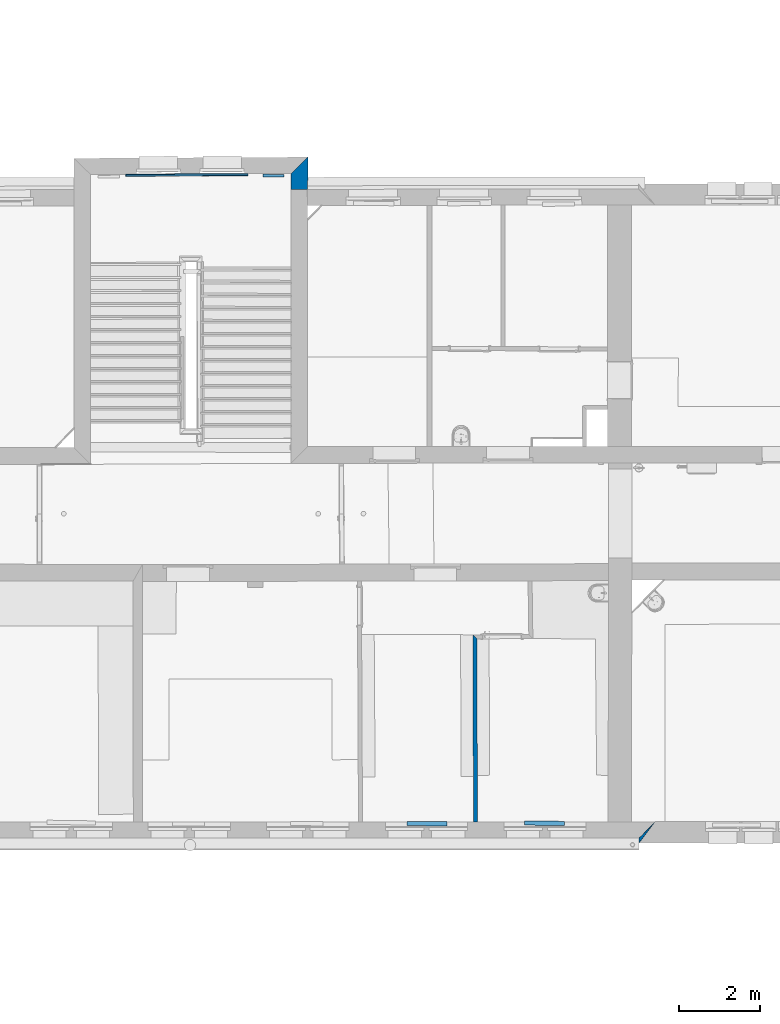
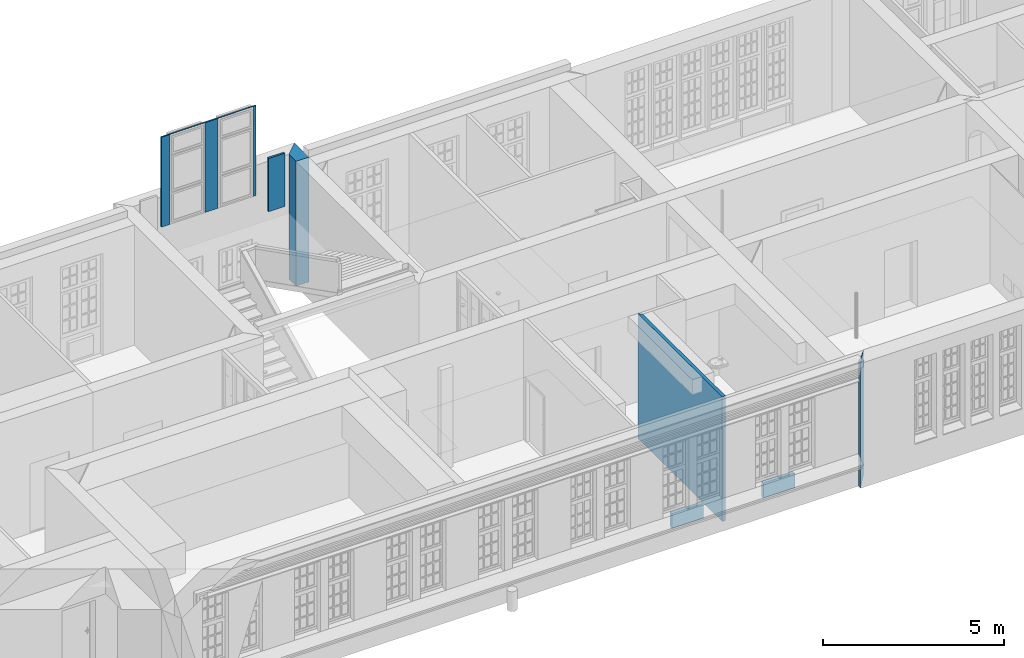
# One storey, part 20 of 90: 7 walls, 2 openings.
"""IFC2X3 building model written with IfcOpenShell, lengths in metres."""

import ifcopenshell
import ifcopenshell.guid

model = None  # the IFC model being written
_history = None  # IfcOwnerHistory: only IFC2X3 demands one
_inside = {}  # id of a spatial element -> (the spatial element, [elements in it])
_under = {}  # id of a project, library or spatial element -> (it, [spatial elements below it])
_declared = {}  # id of a project -> (the project, [libraries it declares])
_typed = {}  # id of a type object -> (the type object, [elements of that type])
_made_of = {}  # id of a material, layer set ... -> (it, [elements and type objects made of it])


def new_model(schema):
    """Start an empty IFC model of exactly this schema.

    Asked for "IFC4X3", IfcOpenShell would pick the latest addendum, in which some entities
    have other attributes; the version numbers below select the first issue.
    IFC2X3 requires an IfcOwnerHistory on every rooted entity: one is made here for all.
    """
    global model, _history
    if schema == "IFC4X3":
        model = ifcopenshell.file(schema_version=(4, 3, 0, 0))
    else:
        model = ifcopenshell.file(schema=schema)
    _inside.clear()
    _under.clear()
    _declared.clear()
    _typed.clear()
    _made_of.clear()
    _history = None
    if model.schema == "IFC2X3":
        org = make("IfcOrganization", Name="unknown")
        user = make(
            "IfcPersonAndOrganization",
            ThePerson=make("IfcPerson", FamilyName="unknown"),
            TheOrganization=org,
        )
        app = make(
            "IfcApplication",
            ApplicationDeveloper=org,
            Version="unknown",
            ApplicationFullName="unknown",
            ApplicationIdentifier="unknown",
        )
        _history = make(
            "IfcOwnerHistory",
            OwningUser=user,
            OwningApplication=app,
            ChangeAction="ADDED",
            CreationDate=0,
        )
    return model


def make(cls, **values):
    """One entity of the class cls with the attributes given. An attribute that is None is left unset."""
    return model.create_entity(
        cls, **{name: value for name, value in values.items() if value is not None}
    )


def entity(cls, *values):
    """Any entity or typed value of the class cls, its attributes in the order of the schema. None: left unset."""
    e = model.create_entity(cls)
    for i, value in enumerate(values):
        if value is not None:
            e[i] = value
    return e


def rooted(cls, **values):
    """An entity with a GlobalId (a new one), such as an element, a storey or a relation."""
    return make(cls, GlobalId=ifcopenshell.guid.new(), OwnerHistory=_history, **values)


def si_unit(unit_type, name, prefix=None):
    """IfcSIUnit, for example si_unit("LENGTHUNIT", "METRE", prefix="MILLI")."""
    return make("IfcSIUnit", UnitType=unit_type, Prefix=prefix, Name=name)


def converted_unit(unit_type, name, factor, base, dimensions=None, offset=None):
    """IfcConversionBasedUnit, such as the inch: factor (a typed value) times the base unit."""
    return make(
        "IfcConversionBasedUnit"
        if offset is None
        else "IfcConversionBasedUnitWithOffset",
        ConversionOffset=offset,
        Dimensions=None
        if dimensions is None
        else entity("IfcDimensionalExponents", *dimensions),
        UnitType=unit_type,
        Name=name,
        ConversionFactor=make(
            "IfcMeasureWithUnit", ValueComponent=factor, UnitComponent=base
        ),
    )


def derived_unit(unit_type, elements):
    """IfcDerivedUnit: a product of units, each with its exponent."""
    return make(
        "IfcDerivedUnit",
        Elements=[
            make("IfcDerivedUnitElement", Unit=unit, Exponent=power)
            for unit, power in elements
        ],
        UnitType=unit_type,
    )


def money_unit(currency):
    """IfcMonetaryUnit."""
    return make("IfcMonetaryUnit", Currency=currency)


def assignment(units):
    """IfcUnitAssignment: the units of a project."""
    return None if units is None else make("IfcUnitAssignment", Units=units)


def point(xyz):
    """IfcCartesianPoint."""
    return None if xyz is None else make("IfcCartesianPoint", Coordinates=xyz)


def direction(xyz):
    """IfcDirection."""
    return None if xyz is None else make("IfcDirection", DirectionRatios=xyz)


def frame(location, z_axis=None, x_axis=None):
    """IfcAxis2Placement3D, a coordinate frame: its origin and axes. An axis left out is left unset."""
    return make(
        "IfcAxis2Placement3D",
        Location=point(location),
        Axis=direction(z_axis),
        RefDirection=direction(x_axis),
    )


def frame_2d(location, x_axis=None):
    """IfcAxis2Placement2D, a coordinate frame in the plane: its origin and x axis."""
    return make(
        "IfcAxis2Placement2D", Location=point(location), RefDirection=direction(x_axis)
    )


def origin_with_axes():
    """The frame at (0, 0, 0) with the z axis (0, 0, 1) and the x axis (1, 0, 0) written out."""
    return frame((0.0, 0.0, 0.0), z_axis=(0.0, 0.0, 1.0), x_axis=(1.0, 0.0, 0.0))


def origin_2d_with_axis():
    """The frame at (0, 0) in the plane with the x axis (1, 0) written out."""
    return frame_2d((0.0, 0.0), x_axis=(1.0, 0.0))


def place(relative_to, where):
    """IfcLocalPlacement: puts the frame where relative to a parent placement (None: the world)."""
    return make(
        "IfcLocalPlacement", PlacementRelTo=relative_to, RelativePlacement=where
    )


def context(
    kind, dimensions, precision=None, world=None, true_north=None, identifier=None
):
    """IfcGeometricRepresentationContext, for example the 3D "Model" context."""
    return make(
        "IfcGeometricRepresentationContext",
        ContextIdentifier=identifier,
        ContextType=kind,
        CoordinateSpaceDimension=dimensions,
        Precision=precision,
        WorldCoordinateSystem=world,
        TrueNorth=true_north,
    )


def subcontext(parent, identifier, kind, view, scale=None):
    """IfcGeometricRepresentationSubContext, for example "Body" below "Model"."""
    return make(
        "IfcGeometricRepresentationSubContext",
        ContextIdentifier=identifier,
        ContextType=kind,
        ParentContext=parent,
        TargetScale=scale,
        TargetView=view,
    )


def project(units=None, contexts=None):
    """IfcProject with its units and contexts."""
    return rooted(
        "IfcProject",
        Name="project",
        RepresentationContexts=contexts,
        UnitsInContext=assignment(units),
    )


def spatial(cls, under=None, at=None, **own):
    """A site, building, storey or space (cls), placed at a placement, below another one or the project."""
    s = rooted(cls, ObjectPlacement=at, **own)
    if under is not None:
        _under.setdefault(under.id(), (under, []))[1].append(s)
    return s


def polyline(points):
    """IfcPolyline through the points."""
    return make("IfcPolyline", Points=[point(p) for p in points])


def profile(cls, at=None, kind="AREA", **sizes):
    """A parametric profile (cls). Its sizes go by their IFC names, for example OverallWidth=200.0."""
    return make(cls, ProfileType=kind, Position=at, **sizes)


def rectangle(**sizes):
    """IfcRectangleProfileDef."""
    return profile("IfcRectangleProfileDef", **sizes)


def outline(outer, holes=None, kind="AREA"):
    """IfcArbitraryClosedProfileDef: a profile drawn as a closed curve; with holes, ...WithVoids."""
    if holes is None:
        return make("IfcArbitraryClosedProfileDef", ProfileType=kind, OuterCurve=outer)
    return make(
        "IfcArbitraryProfileDefWithVoids",
        ProfileType=kind,
        OuterCurve=outer,
        InnerCurves=holes,
    )


def extrude(swept, where, along, depth):
    """IfcExtrudedAreaSolid: the profile swept, set in the frame where, extruded along a direction by depth."""
    return make(
        "IfcExtrudedAreaSolid",
        SweptArea=swept,
        Position=where,
        ExtrudedDirection=direction(along),
        Depth=depth,
    )


def shape(context_of_items, identifier, shape_type, items):
    """IfcShapeRepresentation: the items that make up one representation, for example the "Body"."""
    return make(
        "IfcShapeRepresentation",
        ContextOfItems=context_of_items,
        RepresentationIdentifier=identifier,
        RepresentationType=shape_type,
        Items=items,
    )


def material(Name=None, Category=None):
    """IfcMaterial."""
    return make("IfcMaterial", Name=Name, Category=Category)


def layer(
    of_material, thickness, ventilated=None, Name=None, Category=None, Priority=None
):
    """IfcMaterialLayer: one layer of a wall or slab, of a material (None: an air gap)."""
    return make(
        "IfcMaterialLayer",
        Material=of_material,
        LayerThickness=thickness,
        IsVentilated=ventilated,
        Name=Name,
        Category=Category,
        Priority=Priority,
    )


def layer_set(layers, Name=None):
    """IfcMaterialLayerSet."""
    return make("IfcMaterialLayerSet", MaterialLayers=layers, LayerSetName=Name)


def layer_usage(for_layer_set, set_direction, sense, offset, extent=None):
    """IfcMaterialLayerSetUsage: how a layer set lies in its element."""
    return make(
        "IfcMaterialLayerSetUsage",
        ForLayerSet=for_layer_set,
        LayerSetDirection=set_direction,
        DirectionSense=sense,
        OffsetFromReferenceLine=offset,
        ReferenceExtent=extent,
    )


def made_of(thing, what):
    """Note that an element or type object is made of a material, layer set ...; save() writes the relation."""
    if what is not None:
        _made_of.setdefault(what.id(), (what, []))[1].append(thing)
    return thing


def type_object(cls, material=None, **own):
    """A type object (cls), such as IfcWallType, which elements share."""
    return made_of(rooted(cls, **own), material)


def element(
    cls,
    number,
    at=None,
    inside=None,
    cuts=None,
    type_object=None,
    material=None,
    context=None,
    identifier="Body",
    shape_type=None,
    held_by="IfcProductDefinitionShape",
    body=None,
    shapes=None,
    **own,
):
    """One element of the class cls, such as IfcWall. Its Tag is "e" and its number.

    at: its placement. inside: the storey or other place that contains it. cuts: it is an
    opening in that element (IfcRelVoidsElement). A single representation is given by context,
    identifier, shape_type and body (its items); several are given by shapes. held_by: the class
    of the entity that holds the representations. save() writes the other relations.
    """
    e = rooted(cls, Tag="e%d" % number, ObjectPlacement=at, **own)
    if body is not None:
        shapes = [shape(context, identifier, shape_type, body)]
    if shapes is not None:
        e.Representation = make(held_by, Representations=shapes)
    if inside is not None:
        _inside.setdefault(inside.id(), (inside, []))[1].append(e)
    if cuts is not None:
        rooted(
            "IfcRelVoidsElement", RelatingBuildingElement=cuts, RelatedOpeningElement=e
        )
    if type_object is not None:
        _typed.setdefault(type_object.id(), (type_object, []))[1].append(e)
    return made_of(e, material)


def aggregate(whole, parts):
    """IfcRelAggregates: a whole, such as a stair, and the parts it consists of."""
    return rooted("IfcRelAggregates", RelatingObject=whole, RelatedObjects=parts)


def save(model, path):
    """Write the relations noted so far, then the file.

    IfcRelAggregates (storeys below a building ...), IfcRelContainedInSpatialStructure (elements
    in a storey), IfcRelDefinesByType, IfcRelAssociatesMaterial and IfcRelDeclares: one each for
    every whole, place, type object, material and project.
    """
    for whole, parts in _under.values():
        aggregate(whole, parts)
    for where, things in _inside.values():
        rooted(
            "IfcRelContainedInSpatialStructure",
            RelatedElements=things,
            RelatingStructure=where,
        )
    for kind, things in _typed.values():
        rooted("IfcRelDefinesByType", RelatedObjects=things, RelatingType=kind)
    for what, things in _made_of.values():
        rooted("IfcRelAssociatesMaterial", RelatedObjects=things, RelatingMaterial=what)
    for by, libraries in _declared.values():
        rooted("IfcRelDeclares", RelatingContext=by, RelatedDefinitions=libraries)
    model.write(path)


model = new_model("IFC2X3")

# Units and contexts
model_context = context("Model", 3, precision=1e-05, world=origin_with_axes(), true_north=direction((0.0, 1.0)))
body_context = subcontext(model_context, "Body", "Model", "MODEL_VIEW")
ifc_project = project(units=[si_unit("LENGTHUNIT", "METRE"), si_unit("AREAUNIT", "SQUARE_METRE"), si_unit("VOLUMEUNIT", "CUBIC_METRE"), converted_unit("PLANEANGLEUNIT", "DEGREE", entity("IfcPlaneAngleMeasure", 0.0174532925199), si_unit("PLANEANGLEUNIT", "RADIAN"), dimensions=[0, 0, 0, 0, 0, 0, 0]), money_unit("EUR"), converted_unit("TIMEUNIT", "Year", entity("IfcTimeMeasure", 31556926.0), si_unit("TIMEUNIT", "SECOND"), dimensions=[0, 0, 1, 0, 0, 0, 0]), si_unit("MASSUNIT", "GRAM", prefix="KILO"), si_unit("THERMODYNAMICTEMPERATUREUNIT", "DEGREE_CELSIUS"), si_unit("LUMINOUSINTENSITYUNIT", "LUMEN"), si_unit("ENERGYUNIT", "JOULE", prefix="MEGA"), derived_unit("THERMALCONDUCTANCEUNIT", [(si_unit("POWERUNIT", "WATT"), 1), (si_unit("LENGTHUNIT", "METRE"), -1), (si_unit("THERMODYNAMICTEMPERATUREUNIT", "KELVIN"), -1)]), derived_unit("SPECIFICHEATCAPACITYUNIT", [(si_unit("ENERGYUNIT", "JOULE"), 1), (si_unit("MASSUNIT", "GRAM", prefix="KILO"), -1), (si_unit("THERMODYNAMICTEMPERATUREUNIT", "KELVIN"), -1)]), derived_unit("MASSDENSITYUNIT", [(si_unit("MASSUNIT", "GRAM", prefix="KILO"), 1), (si_unit("VOLUMEUNIT", "CUBIC_METRE"), -1)])], contexts=[model_context])

# Site, building, storey
site_placement = place(None, origin_with_axes())
site = spatial("IfcSite", under=ifc_project, at=site_placement, Name="Gelände", CompositionType="ELEMENT")
building_placement = place(site_placement, origin_with_axes())
building = spatial("IfcBuilding", under=site, at=building_placement, Name="Gebäude", CompositionType="ELEMENT")
storey_placement = place(building_placement, frame((0.0, 0.0, 3.7), z_axis=(0.0, 0.0, 1.0), x_axis=(1.0, 0.0, 0.0)))
storey = spatial("IfcBuildingStorey", under=building, at=storey_placement, Name="1.OBERGESCHOSS", CompositionType="ELEMENT", Elevation=3.7)

# Walls
ifc_material_1 = material(Name="05_ALLGEMEIN - TRAGENDE BAUTEILE")
ifc_layer_1 = layer(ifc_material_1, 0.4, ventilated="UNKNOWN")
ifc_layer_set_1 = layer_set([ifc_layer_1], Name="05_ALLGEMEIN - TRAGENDE BAUTEILE 0.4")
ifc_layer_usage_1 = layer_usage(ifc_layer_set_1, "AXIS2", "NEGATIVE", 0.4)
wall_type_1 = type_object("IfcWallType", Name="05_ALLGEMEIN - TRAGENDE BAUTEILE 400", PredefinedType="ELEMENTEDWALL")
wall_1_placement = place(storey_placement, frame((3.7457522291, 9.9955937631, -0.1), z_axis=(0.0, 0.0, 1.0), x_axis=(-0.00239001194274, -0.999997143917, 0.0)))
element("IfcWallStandardCase", 1, at=wall_1_placement, inside=storey, type_object=wall_type_1, material=ifc_layer_usage_1, Name="Wand-031", ObjectType="ELEMENTEDWALL", context=body_context, shape_type="SweptSolid", body=[
    extrude(outline(polyline([(-0.37408795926, 0.373166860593), (1.23606519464e-09, 0.0), (0.121186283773, 0.0), (-0.37408795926, 0.373166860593)])), origin_with_axes(), (0.0, 0.0, 1.0), 4.2),
])
ifc_material_2 = material(Name="01_ALLGEMEIN - BAUTEIL")
ifc_layer_2 = layer(ifc_material_2, 0.105, ventilated="UNKNOWN")
ifc_layer_set_2 = layer_set([ifc_layer_2], Name="01_ALLGEMEIN - BAUTEIL 0.105")
ifc_layer_usage_2 = layer_usage(ifc_layer_set_2, "AXIS2", "NEGATIVE", 0.105)
wall_type_2 = type_object("IfcWallType", Name="01_ALLGEMEIN - BAUTEIL 105", PredefinedType="ELEMENTEDWALL")
wall_2_placement = place(storey_placement, frame((-1.0114048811, 10.3977938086, 0.300904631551), z_axis=(0.0, 0.0, 1.0), x_axis=(-0.999946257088, 0.0103673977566, 0.0)))
element("IfcWallStandardCase", 2, at=wall_2_placement, inside=storey, type_object=wall_type_2, material=ifc_layer_usage_2, Name="Wand-036", ObjectType="ELEMENTEDWALL", context=body_context, shape_type="SweptSolid", body=[
    extrude(outline(polyline([(0.0, 0.0), (0.996446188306, 0.0), (0.996446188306, 0.105), (0.0, 0.105), (0.0, 0.0)])), origin_with_axes(), (0.0, 0.0, 1.0), 0.501014),
])
ifc_layer_usage_3 = layer_usage(ifc_layer_set_2, "AXIS2", "NEGATIVE", 0.105)
wall_3_placement = place(storey_placement, frame((1.90114718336, 10.4079762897, 0.300904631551), z_axis=(0.0, 0.0, 1.0), x_axis=(-0.999946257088, 0.0103673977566, 0.0)))
element("IfcWallStandardCase", 3, at=wall_3_placement, inside=storey, type_object=wall_type_2, material=ifc_layer_usage_3, Name="Wand-036", ObjectType="ELEMENTEDWALL", context=body_context, shape_type="SweptSolid", body=[
    extrude(outline(polyline([(0.0, 0.0), (0.996446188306, 0.0), (0.996446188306, 0.105), (0.0, 0.105), (0.0, 0.0)])), origin_with_axes(), (0.0, 0.0, 1.0), 0.501014),
])
ifc_material_3 = material(Name="43_Gipskarton")
ifc_layer_3 = layer(ifc_material_3, 0.1, ventilated="UNKNOWN")
ifc_layer_set_3 = layer_set([ifc_layer_3], Name="43_Gipskarton 0.1")
ifc_layer_usage_4 = layer_usage(ifc_layer_set_3, "AXIS2", "NEGATIVE", 0.1)
wall_type_3 = type_object("IfcWallType", Name="43_Gipskarton 100", PredefinedType="ELEMENTEDWALL")
wall_4_placement = place(storey_placement, frame((-0.371857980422, 15.0280709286, -0.1), z_axis=(0.0, 0.0, 1.0), x_axis=(0.0029768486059, -0.999995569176, 0.0)))
element("IfcWallStandardCase", 4, at=wall_4_placement, inside=storey, type_object=wall_type_3, material=ifc_layer_usage_4, Name="Wand-040", ObjectType="ELEMENTEDWALL", context=body_context, shape_type="SweptSolid", body=[
    extrude(outline(polyline([(0.0, 0.0), (4.63280655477, 0.0), (4.63309671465, 0.1), (0.100004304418, 0.1), (0.0, 0.0)])), origin_with_axes(), (0.0, 0.0, 1.0), 4.2),
])
ifc_layer_4 = layer(ifc_material_1, 0.41, ventilated="UNKNOWN")
ifc_layer_set_4 = layer_set([ifc_layer_4], Name="05_ALLGEMEIN - TRAGENDE BAUTEILE 0.41")
ifc_layer_usage_5 = layer_usage(ifc_layer_set_4, "AXIS2", "NEGATIVE", 0.41)
wall_type_4 = type_object("IfcWallType", Name="05_ALLGEMEIN - TRAGENDE BAUTEILE 410", PredefinedType="ELEMENTEDWALL")
wall_5_placement = place(storey_placement, frame((-4.46234669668, 26.0612082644, -0.1), z_axis=(0.0, 0.0, 1.0), x_axis=(0.000440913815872, 0.999999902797, 0.0)))
element("IfcWallStandardCase", 5, at=wall_5_placement, inside=storey, type_object=wall_type_4, material=ifc_layer_usage_5, Name="Wand-038", ObjectType="ELEMENTEDWALL", context=body_context, shape_type="SweptSolid", body=[
    extrude(outline(polyline([(0.0, 0.0), (0.797912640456, 0.0), (0.395543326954, 0.41), (0.0, 0.41), (0.0, 0.0)])), origin_with_axes(), (0.0, 0.0, 1.0), 4.2),
])
ifc_layer_5 = layer(ifc_material_2, 0.065, ventilated="UNKNOWN")
ifc_layer_set_5 = layer_set([ifc_layer_5], Name="01_ALLGEMEIN - BAUTEIL 0.065")
ifc_layer_usage_6 = layer_usage(ifc_layer_set_5, "AXIS2", "NEGATIVE", 0.065)
wall_type_5 = type_object("IfcWallType", Name="01_ALLGEMEIN - BAUTEIL 65", PredefinedType="ELEMENTEDWALL")
wall_6_placement = place(storey_placement, frame((-5.56999285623, 26.3711957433, 2.45985666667), z_axis=(0.0, 0.0, 1.0), x_axis=(0.999986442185, -0.00520724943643, 0.0)))
element("IfcWallStandardCase", 6, at=wall_6_placement, inside=storey, type_object=wall_type_5, material=ifc_layer_usage_6, Name="Wand-037", ObjectType="ELEMENTEDWALL", context=body_context, shape_type="SweptSolid", body=[
    extrude(outline(polyline([(0.0, 0.0), (0.521667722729, 0.0), (0.521667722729, 0.065), (0.0, 0.065), (0.0, 0.0)])), origin_with_axes(), (0.0, 0.0, 1.0), 1.794834),
])

# Wall, openings
ifc_layer_6 = layer(ifc_material_1, 0.047, ventilated="UNKNOWN")
ifc_layer_set_6 = layer_set([ifc_layer_6], Name="05_ALLGEMEIN - TRAGENDE BAUTEILE 0.047")
ifc_layer_usage_7 = layer_usage(ifc_layer_set_6, "AXIS2", "NEGATIVE", 0.0)
wall_type_6 = type_object("IfcWallType", Name="05_ALLGEMEIN - TRAGENDE BAUTEILE 47", PredefinedType="ELEMENTEDWALL")
wall_7_placement = place(storey_placement, frame((-5.94819071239, 26.4042054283, 3.12128966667), z_axis=(0.0, 0.0, 1.0), x_axis=(-0.999985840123, -0.00532161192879, 0.0)))
wall_7 = element("IfcWallStandardCase", 7, at=wall_7_placement, inside=storey, type_object=wall_type_6, material=ifc_layer_usage_7, Name="Wand-038", ObjectType="ELEMENTEDWALL", context=body_context, shape_type="SweptSolid", body=[
    extrude(outline(polyline([(0.0, -0.047), (3.02299953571, -0.047), (3.02299953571, 0.0), (0.0, 0.0), (0.0, -0.047)])), origin_with_axes(), (0.0, 0.0, 1.0), 3.025186),
])
opening_1_placement = place(wall_7_placement, frame((0.644478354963, 0.0, 0.0), z_axis=(0.0, 0.0, 1.0), x_axis=(1.0, 0.0, 0.0)))
element("IfcOpeningElement", 8, at=opening_1_placement, cuts=wall_7, Name="Fenster-017", context=body_context, shape_type="SweptSolid", body=[
    extrude(rectangle(XDim=1.13039210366, YDim=3.020261, at=origin_2d_with_axis()), frame((0.0, -0.00677127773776, 1.5101305), z_axis=(0.0, -1.0, 0.0), x_axis=(-1.0, 0.0, 0.0)), (0.0, 0.0, 1.0), 0.0872287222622),
    extrude(rectangle(XDim=1.13039210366, YDim=3.020261, at=origin_2d_with_axis()), frame((0.0, -0.00677127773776, 1.5101305), z_axis=(0.0, 1.0, 0.0), x_axis=(-1.0, 0.0, 0.0)), (0.0, 0.0, 1.0), 0.0537712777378),
])
opening_2_placement = place(wall_7_placement, frame((2.19166057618, 0.0, 0.0), z_axis=(0.0, 0.0, 1.0), x_axis=(1.0, 0.0, 0.0)))
element("IfcOpeningElement", 9, at=opening_2_placement, cuts=wall_7, Name="Fenster-017", context=body_context, shape_type="SweptSolid", body=[
    extrude(rectangle(XDim=1.13039210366, YDim=3.020261, at=origin_2d_with_axis()), frame((0.0, -0.00677127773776, 1.5101305), z_axis=(0.0, -1.0, 0.0), x_axis=(-1.0, 0.0, 0.0)), (0.0, 0.0, 1.0), 0.0872287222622),
    extrude(rectangle(XDim=1.13039210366, YDim=3.020261, at=origin_2d_with_axis()), frame((0.0, -0.00677127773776, 1.5101305), z_axis=(0.0, 1.0, 0.0), x_axis=(-1.0, 0.0, 0.0)), (0.0, 0.0, 1.0), 0.0537712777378),
])

save(model, "model.ifc")
